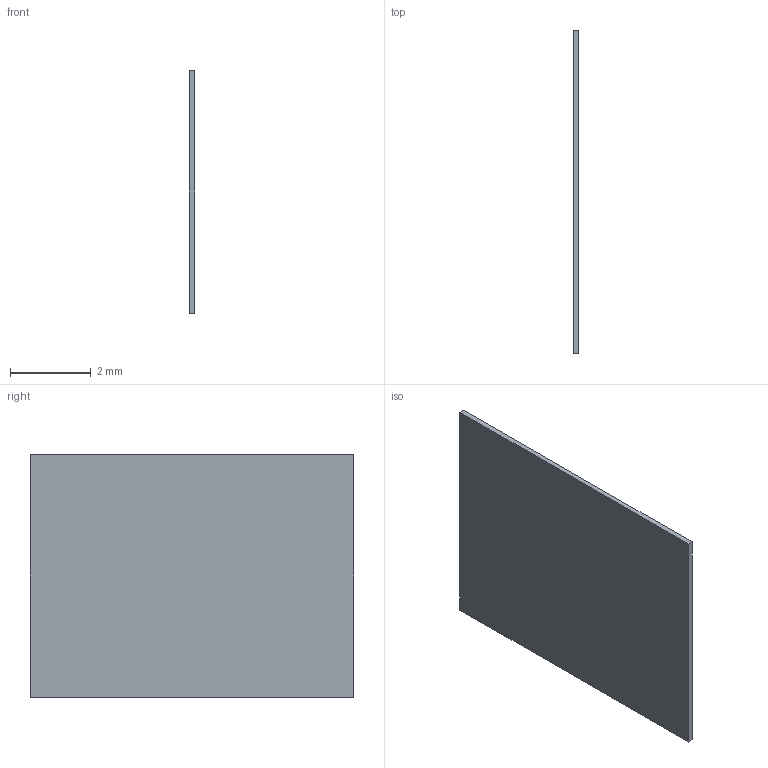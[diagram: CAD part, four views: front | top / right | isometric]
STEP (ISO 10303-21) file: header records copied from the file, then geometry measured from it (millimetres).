
FILE_DESCRIPTION(('Open CASCADE Model'),'2;1');
FILE_NAME('front_grip_PSA_patch_0_13_2','2026-09-08T13:43:18',('Author') ,('Open CASCADE'),'Open CASCADE STEP processor 7.8','build123d', 'Unknown');
FILE_SCHEMA(('AUTOMOTIVE_DESIGN { 1 0 10303 214 1 1 1 1 }'));
Length unit declared in the file: millimetre
Products named in the file (3): =>[0:1:1:2]; front_grip_PSA_patch_0_13_2; SOLID
Assembly tree (2 placements, depth 3):
  =>[0:1:1:2]
    front_grip_PSA_patch_0_13_2
      SOLID
Bounding box: 0.13 x 8 x 6 mm (x, y, z)
Volume: 6.2 mm3; surface area: 99.6 mm2
Topology: 1 solids, 1 shells, 6 faces, 12 edges, 8 vertices
Faces by surface type: plane 6
Entity records: 358 total; most frequent: DIRECTION 54, CARTESIAN_POINT 53, LINE 36, VECTOR 36, ORIENTED_EDGE 24, PCURVE 24, DEFINITIONAL_REPRESENTATION 24, EDGE_CURVE 12
